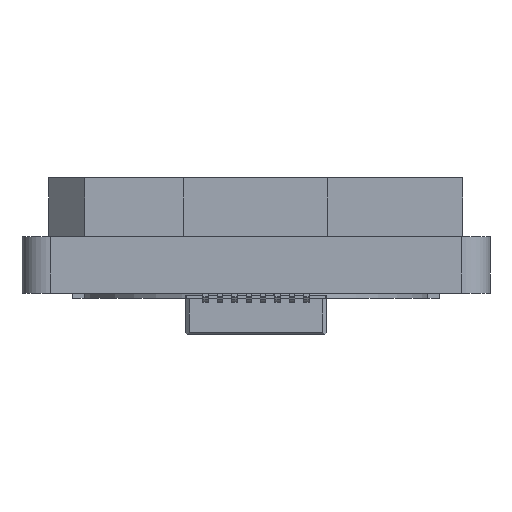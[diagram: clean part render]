
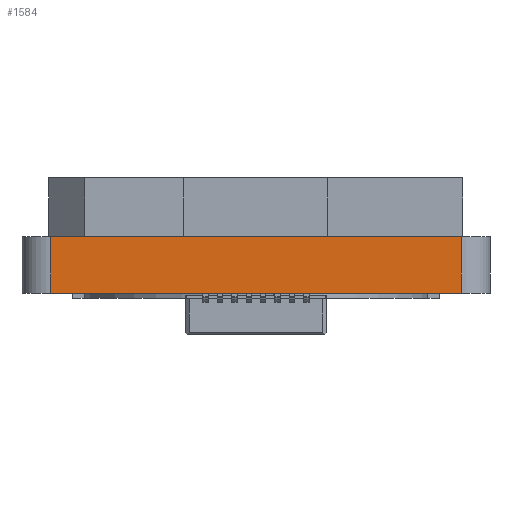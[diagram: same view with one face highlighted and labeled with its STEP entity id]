
A CAD part, front view. The second image highlights one B-rep face of the part: STEP entity #1584.
In plain terms, the highlighted planar face has unit normal (0, -1, 0).
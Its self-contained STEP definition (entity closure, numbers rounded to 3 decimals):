
#253 = DIRECTION ( 'NONE',  ( -1., 0., 0. ) ) ;
#315 = EDGE_LOOP ( 'NONE', ( #12569, #11733, #8570, #9593 ) ) ;
#1026 = EDGE_CURVE ( 'NONE', #6336, #12511, #12183, .T. ) ;
#1384 = CARTESIAN_POINT ( 'NONE',  ( -27.149, -3.015, 1.575 ) ) ;
#1480 = CARTESIAN_POINT ( 'NONE',  ( -27.149, -3.015, 0. ) ) ;
#1584 = ADVANCED_FACE ( 'NONE', ( #2183 ), #2114, .F. ) ;
#1594 = DIRECTION ( 'NONE',  ( 0., 0., -1. ) ) ;
#1660 = VERTEX_POINT ( 'NONE', #12013 ) ;
#1920 = VECTOR ( 'NONE', #3412, 1000. ) ;
#2114 = PLANE ( 'NONE',  #3396 ) ;
#2183 = FACE_OUTER_BOUND ( 'NONE', #315, .T. ) ;
#2633 = DIRECTION ( 'NONE',  ( 0., 0., -1. ) ) ;
#3026 = CARTESIAN_POINT ( 'NONE',  ( -27.149, -3.015, 1.575 ) ) ;
#3396 = AXIS2_PLACEMENT_3D ( 'NONE', #3026, #7050, #253 ) ;
#3412 = DIRECTION ( 'NONE',  ( 1., 0., 0. ) ) ;
#3970 = EDGE_CURVE ( 'NONE', #12511, #8144, #10109, .T. ) ;
#5444 = LINE ( 'NONE', #10407, #11535 ) ;
#5759 = LINE ( 'NONE', #6785, #7302 ) ;
#6336 = VERTEX_POINT ( 'NONE', #9004 ) ;
#6493 = EDGE_CURVE ( 'NONE', #1660, #8144, #5759, .T. ) ;
#6528 = DIRECTION ( 'NONE',  ( 1., 0., 0. ) ) ;
#6785 = CARTESIAN_POINT ( 'NONE',  ( -15.749, -3.015, 1.575 ) ) ;
#6856 = VECTOR ( 'NONE', #2633, 1000. ) ;
#7050 = DIRECTION ( 'NONE',  ( 0., 1., 0. ) ) ;
#7302 = VECTOR ( 'NONE', #1594, 1000. ) ;
#7614 = CARTESIAN_POINT ( 'NONE',  ( -15.749, -3.015, 0. ) ) ;
#8144 = VERTEX_POINT ( 'NONE', #7614 ) ;
#8570 = ORIENTED_EDGE ( 'NONE', *, *, #8775, .F. ) ;
#8775 = EDGE_CURVE ( 'NONE', #6336, #1660, #5444, .T. ) ;
#9004 = CARTESIAN_POINT ( 'NONE',  ( -27.149, -3.015, 1.575 ) ) ;
#9593 = ORIENTED_EDGE ( 'NONE', *, *, #1026, .T. ) ;
#10109 = LINE ( 'NONE', #1480, #1920 ) ;
#10407 = CARTESIAN_POINT ( 'NONE',  ( -27.149, -3.015, 1.575 ) ) ;
#11388 = CARTESIAN_POINT ( 'NONE',  ( -27.149, -3.015, 0. ) ) ;
#11535 = VECTOR ( 'NONE', #6528, 1000. ) ;
#11733 = ORIENTED_EDGE ( 'NONE', *, *, #6493, .F. ) ;
#12013 = CARTESIAN_POINT ( 'NONE',  ( -15.749, -3.015, 1.575 ) ) ;
#12183 = LINE ( 'NONE', #1384, #6856 ) ;
#12511 = VERTEX_POINT ( 'NONE', #11388 ) ;
#12569 = ORIENTED_EDGE ( 'NONE', *, *, #3970, .T. ) ;
